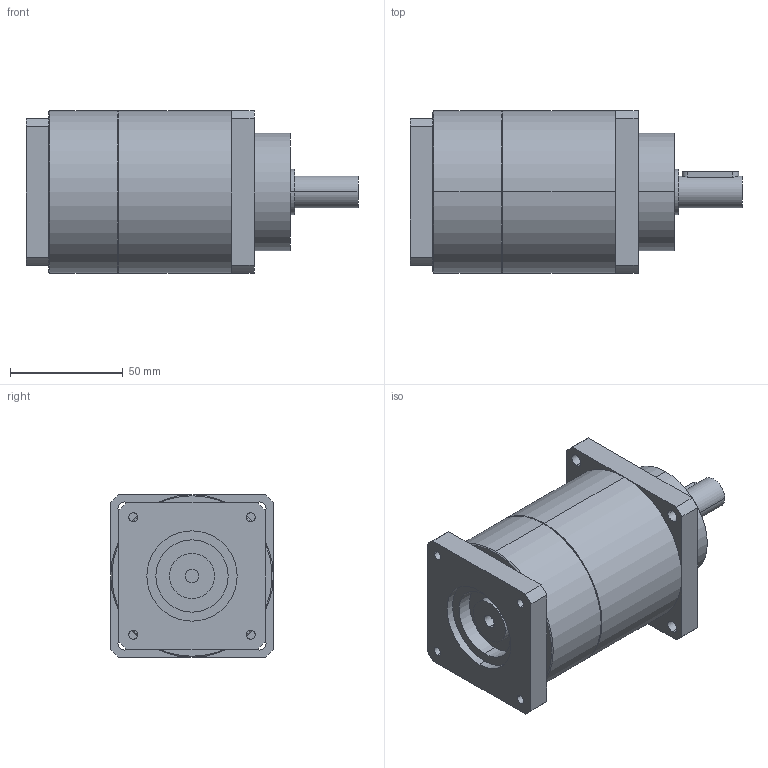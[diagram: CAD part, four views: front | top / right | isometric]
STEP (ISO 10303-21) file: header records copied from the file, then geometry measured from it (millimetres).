
FILE_DESCRIPTION(('CoCreate Modeling STEP Export'),'2;1');
FILE_NAME('GPT75_ig-9-12-16-20-25-28-35-40-50-70-100_14_B5T_6_P34.stp','2014-08-27T13:40:31',(''),(''),'CoCreate Modeling STEP processor for AP214 (Solid Model)','CoCreate Modeling 16.00C 25-Feb-2009 (C) Parametric Technology GmbH','');
FILE_SCHEMA(('AUTOMOTIVE_DESIGN { 1 0 10303 214 1 1 1 1 }'));
Length unit declared in the file: millimetre
Products named in the file (2): GPT75_ig-9-12-16-20-25-28-35-40-50-70-100_14_B5T_6_P34
Assembly tree (1 placements, depth 2):
  GPT75_ig-9-12-16-20-25-28-35-40-50-70-100_14_B5T_6_P34
    GPT75_ig-9-12-16-20-25-28-35-40-50-70-100_14_B5T_6_P34
Bounding box: 147 x 72 x 72 mm (x, y, z)
Volume: 451396.7 mm3; surface area: 42113.5 mm2
Topology: 1 solids, 1 shells, 88 faces, 226 edges, 145 vertices
Faces by surface type: cylinder 46, plane 38, cone 4
Entity records: 2676 total; most frequent: CARTESIAN_POINT 744, ORIENTED_EDGE 452, DIRECTION 334, EDGE_CURVE 226, VERTEX_POINT 145, AXIS2_PLACEMENT_3D 123, EDGE_LOOP 109, VECTOR 88
